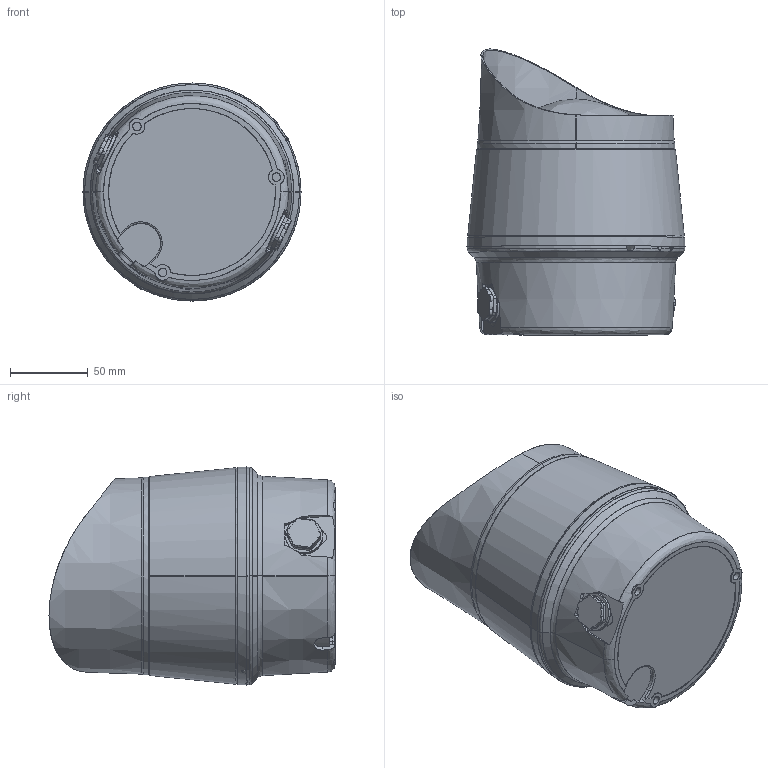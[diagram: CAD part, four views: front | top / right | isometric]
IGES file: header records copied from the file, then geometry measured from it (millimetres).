
Start section: SolidWorks IGES file using analytic representation for surfaces
Global section: file name: L:\3D Volumenmodelle\Spectra\P450 TLA\P450 TLA.IGS; native system: SolidWorks 2015; preprocessor: SolidWorks 2015; author: PDG_MM; date: 171222.103752; units: millimetre
Bounding box: 140 x 183.67 x 140 mm (x, y, z)
Surface area: 207815.8 mm2 (no closed solid volume)
Topology: 0 solids, 0 shells, 550 faces, 7696 edges, 7684 vertices
Faces by surface type: bspline 277, revolution 273
